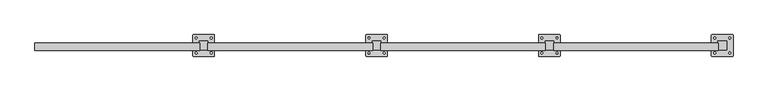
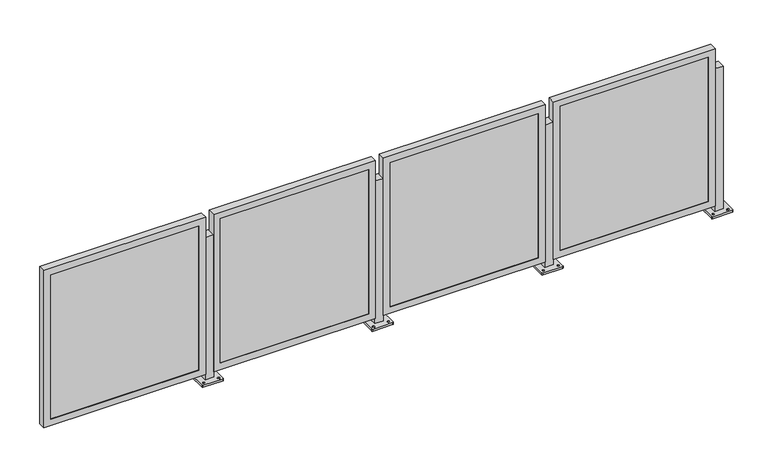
"""IFC4 building model written with IfcOpenShell, lengths in millimetres: railing geometry, Railing - Amico Architectural - Perforated Railing - Sunshade."""

from ifc_helpers import new_model, si_unit, frame, origin, place, context, project, spatial, polyline, circle_curve, outline, extrude, faceted_brep, source, transform, mapped, element, save
from ifc_brep_helpers import plane_surface, cylinder_surface, revolved_surface, advanced_brep


def railing_f60c109b(model_context):
    return source(origin(), model_context, "Body", "SolidModel", [
        advanced_brep(
        [(-7256.9530401, 2085.2064263, 914.4), (-7256.9530401, 2034.4064263, 914.4), (-7206.1530401, 2034.4064263, 914.4), (-7206.1530401, 2085.2064263, 914.4), (-7295.0530403, 1999.4814673, 0.0), (-7295.0530403, 2120.1313853, 0.0), (-7291.8780121, 2123.3064134, 0.0), (-7171.2280681, 2123.3064134, 0.0), (-7168.0530399, 2120.1313853, 0.0), (-7168.0530399, 1999.4814673, 0.0), (-7171.2280681, 1996.3064392, 0.0), (-7291.8780121, 1996.3064392, 0.0), (-7276.0030277, 2009.8001716, 0.0), (-7276.0030277, 2020.9126841, 0.0), (-7276.0030386, 2098.700176, 0.0), (-7276.0030386, 2109.8126576, 0.0), (-7187.1030267, 2009.8001732, 0.0), (-7187.1030267, 2020.9126838, 0.0), (-7187.1030376, 2098.7001776, 0.0), (-7187.1030376, 2109.8126574, 0.0), (-7256.9530401, 2085.2064263, 12.7), (-7256.9530401, 2034.4064263, 12.7), (-7206.1530401, 2034.4064263, 12.7), (-7206.1530401, 2085.2064263, 12.7), (-7295.0530403, 1999.4814673, 12.7), (-7291.8780121, 1996.3064392, 12.7), (-7171.2280681, 1996.3064392, 12.7), (-7168.0530399, 1999.4814673, 12.7), (-7168.0530399, 2120.1313853, 12.7), (-7171.2280681, 2123.3064134, 12.7), (-7291.8780121, 2123.3064134, 12.7), (-7295.0530403, 2120.1313853, 12.7), (-7276.0030277, 2009.8001716, 12.7), (-7276.0030277, 2020.9126841, 12.7), (-7276.0030386, 2098.700176, 12.7), (-7276.0030386, 2109.8126576, 12.7), (-7187.1030267, 2009.8001732, 12.7), (-7187.1030267, 2020.9126838, 12.7), (-7187.1030376, 2098.7001776, 12.7), (-7187.1030376, 2109.8126574, 12.7)],
        [
            (0, 1),
            (1, 2),
            (2, 3),
            (3, 0),
            (4, 5),
            (5, 6, circle_curve(frame((-7291.8780121, 2120.1313853, 0.0), z_axis=(0.0, 0.0, -1.0), x_axis=(0.0, 1.0, 0.0)), 3.1750282)),
            (6, 7),
            (7, 8, circle_curve(frame((-7171.2280681, 2120.1313853, 0.0), z_axis=(0.0, 0.0, -1.0), x_axis=(0.0, 1.0, 0.0)), 3.1750282)),
            (8, 9),
            (9, 10, circle_curve(frame((-7171.2280681, 1999.4814673, 0.0), z_axis=(0.0, 0.0, -1.0), x_axis=(0.0, 1.0, 0.0)), 3.1750282)),
            (10, 11),
            (11, 4, circle_curve(frame((-7291.8780121, 1999.4814673, 0.0), z_axis=(0.0, 0.0, -1.0), x_axis=(0.0, 1.0, 0.0)), 3.1750282)),
            (12, 13, circle_curve(frame((-7276.0030277, 2015.3564279, 0.0), z_axis=(0.0, 0.0, 1.0), x_axis=(0.0, 1.0, 0.0)), 5.5562562)),
            (13, 12, circle_curve(frame((-7276.0030277, 2015.3564279, 0.0), z_axis=(0.0, 0.0, 1.0), x_axis=(0.0, 1.0, 0.0)), 5.5562562)),
            (14, 15, circle_curve(frame((-7276.0030386, 2104.2564168, 0.0), z_axis=(0.0, 0.0, 1.0), x_axis=(0.0, 1.0, 0.0)), 5.5562408)),
            (15, 14, circle_curve(frame((-7276.0030386, 2104.2564168, 0.0), z_axis=(0.0, 0.0, 1.0), x_axis=(0.0, 1.0, 0.0)), 5.5562408)),
            (16, 17, circle_curve(frame((-7187.1030267, 2015.3564285, 0.0), z_axis=(0.0, 0.0, 1.0), x_axis=(0.0, 1.0, 0.0)), 5.5562553)),
            (17, 16, circle_curve(frame((-7187.1030267, 2015.3564285, 0.0), z_axis=(0.0, 0.0, 1.0), x_axis=(0.0, 1.0, 0.0)), 5.5562553)),
            (18, 19, circle_curve(frame((-7187.1030376, 2104.2564175, 0.0), z_axis=(0.0, 0.0, 1.0), x_axis=(0.0, 1.0, 0.0)), 5.5562399)),
            (19, 18, circle_curve(frame((-7187.1030376, 2104.2564175, 0.0), z_axis=(0.0, 0.0, 1.0), x_axis=(0.0, 1.0, 0.0)), 5.5562399)),
            (0, 20),
            (20, 21),
            (21, 1),
            (21, 22),
            (22, 2),
            (22, 23),
            (23, 3),
            (23, 20),
            (24, 25, circle_curve(frame((-7291.8780121, 1999.4814673, 12.7), z_axis=(0.0, 0.0, 1.0), x_axis=(0.0, 1.0, 0.0)), 3.1750282)),
            (25, 26),
            (26, 27, circle_curve(frame((-7171.2280681, 1999.4814673, 12.7), z_axis=(0.0, 0.0, 1.0), x_axis=(0.0, 1.0, 0.0)), 3.1750282)),
            (27, 28),
            (28, 29, circle_curve(frame((-7171.2280681, 2120.1313853, 12.7), z_axis=(0.0, 0.0, 1.0), x_axis=(0.0, 1.0, 0.0)), 3.1750282)),
            (29, 30),
            (30, 31, circle_curve(frame((-7291.8780121, 2120.1313853, 12.7), z_axis=(0.0, 0.0, 1.0), x_axis=(0.0, 1.0, 0.0)), 3.1750282)),
            (31, 24),
            (32, 33, circle_curve(frame((-7276.0030277, 2015.3564279, 12.7), z_axis=(0.0, 0.0, -1.0), x_axis=(0.0, 1.0, 0.0)), 5.5562562)),
            (33, 32, circle_curve(frame((-7276.0030277, 2015.3564279, 12.7), z_axis=(0.0, 0.0, -1.0), x_axis=(0.0, 1.0, 0.0)), 5.5562562)),
            (34, 35, circle_curve(frame((-7276.0030386, 2104.2564168, 12.7), z_axis=(0.0, 0.0, -1.0), x_axis=(0.0, 1.0, 0.0)), 5.5562408)),
            (35, 34, circle_curve(frame((-7276.0030386, 2104.2564168, 12.7), z_axis=(0.0, 0.0, -1.0), x_axis=(0.0, 1.0, 0.0)), 5.5562408)),
            (36, 37, circle_curve(frame((-7187.1030267, 2015.3564285, 12.7), z_axis=(0.0, 0.0, -1.0), x_axis=(0.0, 1.0, 0.0)), 5.5562553)),
            (37, 36, circle_curve(frame((-7187.1030267, 2015.3564285, 12.7), z_axis=(0.0, 0.0, -1.0), x_axis=(0.0, 1.0, 0.0)), 5.5562553)),
            (38, 39, circle_curve(frame((-7187.1030376, 2104.2564175, 12.7), z_axis=(0.0, 0.0, -1.0), x_axis=(0.0, 1.0, 0.0)), 5.5562399)),
            (39, 38, circle_curve(frame((-7187.1030376, 2104.2564175, 12.7), z_axis=(0.0, 0.0, -1.0), x_axis=(0.0, 1.0, 0.0)), 5.5562399)),
            (24, 4),
            (11, 25),
            (10, 26),
            (9, 27),
            (8, 28),
            (7, 29),
            (6, 30),
            (5, 31),
            (32, 12),
            (13, 33),
            (34, 14),
            (15, 35),
            (36, 16),
            (17, 37),
            (38, 18),
            (19, 39),
        ],
        [
            plane_surface(frame((-7256.9530401, 2034.4064263, 914.4), z_axis=(0.0, 0.0, 1.0), x_axis=(0.0, -1.0, 0.0))),
            plane_surface(frame((-7256.9530401, 2034.4064263, 0.0), z_axis=(0.0, 0.0, -1.0), x_axis=(0.0, 1.0, 0.0))),
            plane_surface(frame((-7256.9530401, 2085.2064263, 914.4), z_axis=(-1.0, 0.0, 0.0), x_axis=(0.0, 0.0, -1.0))),
            plane_surface(frame((-7256.9530401, 2034.4064263, 914.4), z_axis=(0.0, -1.0, 0.0), x_axis=(0.0, 0.0, -1.0))),
            plane_surface(frame((-7206.1530401, 2034.4064263, 914.4), z_axis=(1.0, 0.0, 0.0), x_axis=(0.0, 0.0, -1.0))),
            plane_surface(frame((-7206.1530401, 2085.2064263, 914.4), z_axis=(0.0, 1.0, 0.0), x_axis=(0.0, 0.0, -1.0))),
            plane_surface(frame((-7291.8780121, 2002.6564955, 12.7), z_axis=(0.0, 0.0, 1.0), x_axis=(-1.0, 0.0, 0.0))),
            cylinder_surface(frame((-7291.8780121, 1999.4814673, 0.0), z_axis=(0.0, 0.0, 1.0), x_axis=(0.0, 1.0, 0.0)), 3.1750282),
            plane_surface(frame((-7291.8780121, 1996.3064392, 12.7), z_axis=(1.1945386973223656e-12, -1.0, 0.0), x_axis=(0.0, 0.0, -1.0))),
            cylinder_surface(frame((-7171.2280681, 1999.4814673, 0.0), z_axis=(0.0, 0.0, 1.0), x_axis=(0.0, 1.0, 0.0)), 3.1750282),
            plane_surface(frame((-7168.0530399, 1999.4814673, 12.7), z_axis=(1.0, 0.0, 0.0), x_axis=(0.0, 0.0, -1.0))),
            cylinder_surface(frame((-7171.2280681, 2120.1313853, 0.0), z_axis=(0.0, 0.0, 1.0), x_axis=(0.0, 1.0, 0.0)), 3.1750282),
            plane_surface(frame((-7171.2280681, 2123.3064134, 12.7), z_axis=(-1.1946088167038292e-12, 1.0, 0.0), x_axis=(0.0, 0.0, -1.0))),
            cylinder_surface(frame((-7291.8780121, 2120.1313853, 0.0), z_axis=(0.0, 0.0, 1.0), x_axis=(0.0, 1.0, 0.0)), 3.1750282),
            plane_surface(frame((-7295.0530403, 2120.1313853, 12.7), z_axis=(-1.0, 0.0, 0.0), x_axis=(0.0, 0.0, -1.0))),
            revolved_surface(polyline([(-7276.0030277, 2020.9126841, 0.0), (-7276.0030277, 2020.9126841, 12.7)]), (-7276.0030277, 2015.3564279, 0.0), (0.0, 0.0, -1.0)),
            revolved_surface(polyline([(-7276.0030386, 2109.8126576, 0.0), (-7276.0030386, 2109.8126576, 12.7)]), (-7276.0030386, 2104.2564168, 0.0), (0.0, 0.0, -1.0)),
            revolved_surface(polyline([(-7187.1030267, 2020.9126838, 0.0), (-7187.1030267, 2020.9126838, 12.7)]), (-7187.1030267, 2015.3564285, 0.0), (0.0, 0.0, -1.0)),
            revolved_surface(polyline([(-7187.1030376, 2109.8126574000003, 0.0), (-7187.1030376, 2109.8126574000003, 12.7)]), (-7187.1030376, 2104.2564175, 0.0), (0.0, 0.0, -1.0)),
        ],
        [
            (0, [[1, 2, 3, 4]]),
            (1, [[5, 6, 7, 8, 9, 10, 11, 12], [13, 14], [15, 16], [17, 18], [19, 20]]),
            (2, [[-1, 21, 22, 23]]),
            (3, [[-2, -23, 24, 25]]),
            (4, [[-3, -25, 26, 27]]),
            (5, [[-4, -27, 28, -21]]),
            (6, [[29, 30, 31, 32, 33, 34, 35, 36], [-22, -28, -26, -24], [37, 38], [39, 40], [41, 42], [43, 44]]),
            (7, [[-29, 45, -12, 46]]),
            (8, [[-30, -46, -11, 47]]),
            (9, [[-31, -47, -10, 48]]),
            (10, [[-32, -48, -9, 49]]),
            (11, [[-33, -49, -8, 50]]),
            (12, [[-34, -50, -7, 51]]),
            (13, [[-35, -51, -6, 52]]),
            (14, [[-36, -52, -5, -45]]),
            (15, [[-37, 53, -14, 54]]),
            (15, [[-38, -54, -13, -53]]),
            (16, [[-39, 55, -16, 56]]),
            (16, [[-40, -56, -15, -55]]),
            (17, [[-41, 57, -18, 58]]),
            (17, [[-42, -58, -17, -57]]),
            (18, [[-43, 59, -20, 60]]),
            (18, [[-44, -60, -19, -59]]),
        ],
    ),
        faceted_brep([(-8223.3574935, 2031.6632263, 47.625), (-7254.9824935, 2031.6632263, 47.625), (-7254.9824935, 2031.6632263, 1044.575), (-8223.3574935, 2031.6632263, 1044.575), (-8182.0824935, 2031.6632263, 1003.3), (-7296.2574935, 2031.6632263, 1003.3), (-7296.2574935, 2031.6632263, 88.9), (-8182.0824935, 2031.6632263, 88.9), (-8182.0824935, 2034.4064263, 1003.3), (-8182.0824935, 2034.4064263, 88.9), (-8223.3574935, 2075.5365228, 1044.575), (-8223.3574935, 2075.5365228, 47.625), (-8220.1824935, 2075.5365228, 1041.4), (-8220.1824935, 2034.4064263, 1041.4), (-8220.1824935, 2034.4064263, 50.8), (-8220.1824935, 2075.5365228, 50.8), (-7296.2574935, 2034.4064263, 88.9), (-7254.9824935, 2075.5365228, 47.625), (-7258.1574935, 2034.4064263, 50.8), (-7258.1574935, 2075.5365228, 50.8), (-7296.2574935, 2034.4064263, 1003.3), (-7254.9824935, 2075.5365228, 1044.575), (-7258.1574935, 2034.4064263, 1041.4), (-7258.1574935, 2075.5365228, 1041.4)], [[[0, 1, 2, 3], [4, 5, 6, 7]], [[8, 4, 7, 9]], [[3, 10, 11, 0]], [[12, 13, 14, 15]], [[9, 7, 6, 16]], [[0, 11, 17, 1]], [[15, 14, 18, 19]], [[16, 6, 5, 20]], [[1, 17, 21, 2]], [[19, 18, 22, 23]], [[20, 5, 4, 8]], [[10, 21, 17, 11], [15, 19, 23, 12]], [[2, 21, 10, 3]], [[13, 22, 18, 14], [9, 16, 20, 8]], [[23, 22, 13, 12]]]),
        extrude(outline(polyline([(-8220.1824935, 2043.9314263), (-7258.1574935, 2043.9314263), (-7258.1574935, 2034.4064263), (-8220.1824935, 2034.4064263), (-8220.1824935, 2043.9314263)])), frame((0.0, 0.0, 50.8), z_axis=(0.0, 0.0, 1.0), x_axis=(1.0, 0.0, 0.0)), (0.0, 0.0, 1.0), 990.6),
        advanced_brep(
        [(-8272.9530401, 2085.2064263, 914.4), (-8272.9530401, 2034.4064263, 914.4), (-8222.1530401, 2034.4064263, 914.4), (-8222.1530401, 2085.2064263, 914.4), (-8311.0530403, 1999.4814673, 0.0), (-8311.0530403, 2120.1313853, 0.0), (-8307.8780121, 2123.3064134, 0.0), (-8187.2280681, 2123.3064134, 0.0), (-8184.0530399, 2120.1313853, 0.0), (-8184.0530399, 1999.4814673, 0.0), (-8187.2280681, 1996.3064392, 0.0), (-8307.8780121, 1996.3064392, 0.0), (-8292.0030277, 2009.8001716, 0.0), (-8292.0030277, 2020.9126841, 0.0), (-8292.0030386, 2098.700176, 0.0), (-8292.0030386, 2109.8126576, 0.0), (-8203.1030267, 2009.8001732, 0.0), (-8203.1030267, 2020.9126838, 0.0), (-8203.1030376, 2098.7001776, 0.0), (-8203.1030376, 2109.8126574, 0.0), (-8272.9530401, 2085.2064263, 12.7), (-8272.9530401, 2034.4064263, 12.7), (-8222.1530401, 2034.4064263, 12.7), (-8222.1530401, 2085.2064263, 12.7), (-8311.0530403, 1999.4814673, 12.7), (-8307.8780121, 1996.3064392, 12.7), (-8187.2280681, 1996.3064392, 12.7), (-8184.0530399, 1999.4814673, 12.7), (-8184.0530399, 2120.1313853, 12.7), (-8187.2280681, 2123.3064134, 12.7), (-8307.8780121, 2123.3064134, 12.7), (-8311.0530403, 2120.1313853, 12.7), (-8292.0030277, 2009.8001716, 12.7), (-8292.0030277, 2020.9126841, 12.7), (-8292.0030386, 2098.700176, 12.7), (-8292.0030386, 2109.8126576, 12.7), (-8203.1030267, 2009.8001732, 12.7), (-8203.1030267, 2020.9126838, 12.7), (-8203.1030376, 2098.7001776, 12.7), (-8203.1030376, 2109.8126574, 12.7)],
        [
            (0, 1),
            (1, 2),
            (2, 3),
            (3, 0),
            (4, 5),
            (5, 6, circle_curve(frame((-8307.8780121, 2120.1313853, 0.0), z_axis=(0.0, 0.0, -1.0), x_axis=(0.0, 1.0, 0.0)), 3.1750282)),
            (6, 7),
            (7, 8, circle_curve(frame((-8187.2280681, 2120.1313853, 0.0), z_axis=(0.0, 0.0, -1.0), x_axis=(0.0, 1.0, 0.0)), 3.1750282)),
            (8, 9),
            (9, 10, circle_curve(frame((-8187.2280681, 1999.4814673, 0.0), z_axis=(0.0, 0.0, -1.0), x_axis=(0.0, 1.0, 0.0)), 3.1750282)),
            (10, 11),
            (11, 4, circle_curve(frame((-8307.8780121, 1999.4814673, 0.0), z_axis=(0.0, 0.0, -1.0), x_axis=(0.0, 1.0, 0.0)), 3.1750282)),
            (12, 13, circle_curve(frame((-8292.0030277, 2015.3564279, 0.0), z_axis=(0.0, 0.0, 1.0), x_axis=(0.0, 1.0, 0.0)), 5.5562562)),
            (13, 12, circle_curve(frame((-8292.0030277, 2015.3564279, 0.0), z_axis=(0.0, 0.0, 1.0), x_axis=(0.0, 1.0, 0.0)), 5.5562562)),
            (14, 15, circle_curve(frame((-8292.0030386, 2104.2564168, 0.0), z_axis=(0.0, 0.0, 1.0), x_axis=(0.0, 1.0, 0.0)), 5.5562408)),
            (15, 14, circle_curve(frame((-8292.0030386, 2104.2564168, 0.0), z_axis=(0.0, 0.0, 1.0), x_axis=(0.0, 1.0, 0.0)), 5.5562408)),
            (16, 17, circle_curve(frame((-8203.1030267, 2015.3564285, 0.0), z_axis=(0.0, 0.0, 1.0), x_axis=(0.0, 1.0, 0.0)), 5.5562553)),
            (17, 16, circle_curve(frame((-8203.1030267, 2015.3564285, 0.0), z_axis=(0.0, 0.0, 1.0), x_axis=(0.0, 1.0, 0.0)), 5.5562553)),
            (18, 19, circle_curve(frame((-8203.1030376, 2104.2564175, 0.0), z_axis=(0.0, 0.0, 1.0), x_axis=(0.0, 1.0, 0.0)), 5.5562399)),
            (19, 18, circle_curve(frame((-8203.1030376, 2104.2564175, 0.0), z_axis=(0.0, 0.0, 1.0), x_axis=(0.0, 1.0, 0.0)), 5.5562399)),
            (0, 20),
            (20, 21),
            (21, 1),
            (21, 22),
            (22, 2),
            (22, 23),
            (23, 3),
            (23, 20),
            (24, 25, circle_curve(frame((-8307.8780121, 1999.4814673, 12.7), z_axis=(0.0, 0.0, 1.0), x_axis=(0.0, 1.0, 0.0)), 3.1750282)),
            (25, 26),
            (26, 27, circle_curve(frame((-8187.2280681, 1999.4814673, 12.7), z_axis=(0.0, 0.0, 1.0), x_axis=(0.0, 1.0, 0.0)), 3.1750282)),
            (27, 28),
            (28, 29, circle_curve(frame((-8187.2280681, 2120.1313853, 12.7), z_axis=(0.0, 0.0, 1.0), x_axis=(0.0, 1.0, 0.0)), 3.1750282)),
            (29, 30),
            (30, 31, circle_curve(frame((-8307.8780121, 2120.1313853, 12.7), z_axis=(0.0, 0.0, 1.0), x_axis=(0.0, 1.0, 0.0)), 3.1750282)),
            (31, 24),
            (32, 33, circle_curve(frame((-8292.0030277, 2015.3564279, 12.7), z_axis=(0.0, 0.0, -1.0), x_axis=(0.0, 1.0, 0.0)), 5.5562562)),
            (33, 32, circle_curve(frame((-8292.0030277, 2015.3564279, 12.7), z_axis=(0.0, 0.0, -1.0), x_axis=(0.0, 1.0, 0.0)), 5.5562562)),
            (34, 35, circle_curve(frame((-8292.0030386, 2104.2564168, 12.7), z_axis=(0.0, 0.0, -1.0), x_axis=(0.0, 1.0, 0.0)), 5.5562408)),
            (35, 34, circle_curve(frame((-8292.0030386, 2104.2564168, 12.7), z_axis=(0.0, 0.0, -1.0), x_axis=(0.0, 1.0, 0.0)), 5.5562408)),
            (36, 37, circle_curve(frame((-8203.1030267, 2015.3564285, 12.7), z_axis=(0.0, 0.0, -1.0), x_axis=(0.0, 1.0, 0.0)), 5.5562553)),
            (37, 36, circle_curve(frame((-8203.1030267, 2015.3564285, 12.7), z_axis=(0.0, 0.0, -1.0), x_axis=(0.0, 1.0, 0.0)), 5.5562553)),
            (38, 39, circle_curve(frame((-8203.1030376, 2104.2564175, 12.7), z_axis=(0.0, 0.0, -1.0), x_axis=(0.0, 1.0, 0.0)), 5.5562399)),
            (39, 38, circle_curve(frame((-8203.1030376, 2104.2564175, 12.7), z_axis=(0.0, 0.0, -1.0), x_axis=(0.0, 1.0, 0.0)), 5.5562399)),
            (24, 4),
            (11, 25),
            (10, 26),
            (9, 27),
            (8, 28),
            (7, 29),
            (6, 30),
            (5, 31),
            (32, 12),
            (13, 33),
            (34, 14),
            (15, 35),
            (36, 16),
            (17, 37),
            (38, 18),
            (19, 39),
        ],
        [
            plane_surface(frame((-8272.9530401, 2034.4064263, 914.4), z_axis=(0.0, 0.0, 1.0), x_axis=(0.0, -1.0, 0.0))),
            plane_surface(frame((-8272.9530401, 2034.4064263, 0.0), z_axis=(0.0, 0.0, -1.0), x_axis=(0.0, 1.0, 0.0))),
            plane_surface(frame((-8272.9530401, 2085.2064263, 914.4), z_axis=(-1.0, 0.0, 0.0), x_axis=(0.0, 0.0, -1.0))),
            plane_surface(frame((-8272.9530401, 2034.4064263, 914.4), z_axis=(0.0, -1.0, 0.0), x_axis=(0.0, 0.0, -1.0))),
            plane_surface(frame((-8222.1530401, 2034.4064263, 914.4), z_axis=(1.0, 0.0, 0.0), x_axis=(0.0, 0.0, -1.0))),
            plane_surface(frame((-8222.1530401, 2085.2064263, 914.4), z_axis=(0.0, 1.0, 0.0), x_axis=(0.0, 0.0, -1.0))),
            plane_surface(frame((-8307.8780121, 2002.6564955, 12.7), z_axis=(0.0, 0.0, 1.0), x_axis=(-1.0, 0.0, 0.0))),
            cylinder_surface(frame((-8307.8780121, 1999.4814673, 0.0), z_axis=(0.0, 0.0, 1.0), x_axis=(0.0, 1.0, 0.0)), 3.1750282),
            plane_surface(frame((-8307.8780121, 1996.3064392, 12.7), z_axis=(1.1945386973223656e-12, -1.0, 0.0), x_axis=(0.0, 0.0, -1.0))),
            cylinder_surface(frame((-8187.2280681, 1999.4814673, 0.0), z_axis=(0.0, 0.0, 1.0), x_axis=(0.0, 1.0, 0.0)), 3.1750282),
            plane_surface(frame((-8184.0530399, 1999.4814673, 12.7), z_axis=(1.0, 0.0, 0.0), x_axis=(0.0, 0.0, -1.0))),
            cylinder_surface(frame((-8187.2280681, 2120.1313853, 0.0), z_axis=(0.0, 0.0, 1.0), x_axis=(0.0, 1.0, 0.0)), 3.1750282),
            plane_surface(frame((-8187.2280681, 2123.3064134, 12.7), z_axis=(-1.1946088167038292e-12, 1.0, 0.0), x_axis=(0.0, 0.0, -1.0))),
            cylinder_surface(frame((-8307.8780121, 2120.1313853, 0.0), z_axis=(0.0, 0.0, 1.0), x_axis=(0.0, 1.0, 0.0)), 3.1750282),
            plane_surface(frame((-8311.0530403, 2120.1313853, 12.7), z_axis=(-1.0, 0.0, 0.0), x_axis=(0.0, 0.0, -1.0))),
            revolved_surface(polyline([(-8292.0030277, 2020.9126841, 0.0), (-8292.0030277, 2020.9126841, 12.7)]), (-8292.0030277, 2015.3564279, 0.0), (0.0, 0.0, -1.0)),
            revolved_surface(polyline([(-8292.0030386, 2109.8126576, 0.0), (-8292.0030386, 2109.8126576, 12.7)]), (-8292.0030386, 2104.2564168, 0.0), (0.0, 0.0, -1.0)),
            revolved_surface(polyline([(-8203.1030267, 2020.9126838, 0.0), (-8203.1030267, 2020.9126838, 12.7)]), (-8203.1030267, 2015.3564285, 0.0), (0.0, 0.0, -1.0)),
            revolved_surface(polyline([(-8203.1030376, 2109.8126574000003, 0.0), (-8203.1030376, 2109.8126574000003, 12.7)]), (-8203.1030376, 2104.2564175, 0.0), (0.0, 0.0, -1.0)),
        ],
        [
            (0, [[1, 2, 3, 4]]),
            (1, [[5, 6, 7, 8, 9, 10, 11, 12], [13, 14], [15, 16], [17, 18], [19, 20]]),
            (2, [[-1, 21, 22, 23]]),
            (3, [[-2, -23, 24, 25]]),
            (4, [[-3, -25, 26, 27]]),
            (5, [[-4, -27, 28, -21]]),
            (6, [[29, 30, 31, 32, 33, 34, 35, 36], [-22, -28, -26, -24], [37, 38], [39, 40], [41, 42], [43, 44]]),
            (7, [[-29, 45, -12, 46]]),
            (8, [[-30, -46, -11, 47]]),
            (9, [[-31, -47, -10, 48]]),
            (10, [[-32, -48, -9, 49]]),
            (11, [[-33, -49, -8, 50]]),
            (12, [[-34, -50, -7, 51]]),
            (13, [[-35, -51, -6, 52]]),
            (14, [[-36, -52, -5, -45]]),
            (15, [[-37, 53, -14, 54]]),
            (15, [[-38, -54, -13, -53]]),
            (16, [[-39, 55, -16, 56]]),
            (16, [[-40, -56, -15, -55]]),
            (17, [[-41, 57, -18, 58]]),
            (17, [[-42, -58, -17, -57]]),
            (18, [[-43, 59, -20, 60]]),
            (18, [[-44, -60, -19, -59]]),
        ],
    ),
        faceted_brep([(-9239.3574935, 2031.6632263, 47.625), (-8270.9824935, 2031.6632263, 47.625), (-8270.9824935, 2031.6632263, 1044.575), (-9239.3574935, 2031.6632263, 1044.575), (-9198.0824935, 2031.6632263, 1003.3), (-8312.2574935, 2031.6632263, 1003.3), (-8312.2574935, 2031.6632263, 88.9), (-9198.0824935, 2031.6632263, 88.9), (-9198.0824935, 2034.4064263, 1003.3), (-9198.0824935, 2034.4064263, 88.9), (-9239.3574935, 2075.5365228, 1044.575), (-9239.3574935, 2075.5365228, 47.625), (-9236.1824935, 2075.5365228, 1041.4), (-9236.1824935, 2034.4064263, 1041.4), (-9236.1824935, 2034.4064263, 50.8), (-9236.1824935, 2075.5365228, 50.8), (-8312.2574935, 2034.4064263, 88.9), (-8270.9824935, 2075.5365228, 47.625), (-8274.1574935, 2034.4064263, 50.8), (-8274.1574935, 2075.5365228, 50.8), (-8312.2574935, 2034.4064263, 1003.3), (-8270.9824935, 2075.5365228, 1044.575), (-8274.1574935, 2034.4064263, 1041.4), (-8274.1574935, 2075.5365228, 1041.4)], [[[0, 1, 2, 3], [4, 5, 6, 7]], [[8, 4, 7, 9]], [[3, 10, 11, 0]], [[12, 13, 14, 15]], [[9, 7, 6, 16]], [[0, 11, 17, 1]], [[15, 14, 18, 19]], [[16, 6, 5, 20]], [[1, 17, 21, 2]], [[19, 18, 22, 23]], [[20, 5, 4, 8]], [[10, 21, 17, 11], [15, 19, 23, 12]], [[2, 21, 10, 3]], [[13, 22, 18, 14], [9, 16, 20, 8]], [[23, 22, 13, 12]]]),
        extrude(outline(polyline([(-9236.1824935, 2043.9314263), (-8274.1574935, 2043.9314263), (-8274.1574935, 2034.4064263), (-9236.1824935, 2034.4064263), (-9236.1824935, 2043.9314263)])), frame((0.0, 0.0, 50.8), z_axis=(0.0, 0.0, 1.0), x_axis=(1.0, 0.0, 0.0)), (0.0, 0.0, 1.0), 990.6),
        advanced_brep(
        [(-9288.9530401, 2085.2064263, 914.4), (-9288.9530401, 2034.4064263, 914.4), (-9238.1530401, 2034.4064263, 914.4), (-9238.1530401, 2085.2064263, 914.4), (-9327.0530403, 1999.4814673, 0.0), (-9327.0530403, 2120.1313853, 0.0), (-9323.8780121, 2123.3064134, 0.0), (-9203.2280681, 2123.3064134, 0.0), (-9200.0530399, 2120.1313853, 0.0), (-9200.0530399, 1999.4814673, 0.0), (-9203.2280681, 1996.3064392, 0.0), (-9323.8780121, 1996.3064392, 0.0), (-9308.0030277, 2009.8001716, 0.0), (-9308.0030277, 2020.9126841, 0.0), (-9308.0030386, 2098.700176, 0.0), (-9308.0030386, 2109.8126576, 0.0), (-9219.1030267, 2009.8001732, 0.0), (-9219.1030267, 2020.9126838, 0.0), (-9219.1030376, 2098.7001776, 0.0), (-9219.1030376, 2109.8126574, 0.0), (-9288.9530401, 2085.2064263, 12.7), (-9288.9530401, 2034.4064263, 12.7), (-9238.1530401, 2034.4064263, 12.7), (-9238.1530401, 2085.2064263, 12.7), (-9327.0530403, 1999.4814673, 12.7), (-9323.8780121, 1996.3064392, 12.7), (-9203.2280681, 1996.3064392, 12.7), (-9200.0530399, 1999.4814673, 12.7), (-9200.0530399, 2120.1313853, 12.7), (-9203.2280681, 2123.3064134, 12.7), (-9323.8780121, 2123.3064134, 12.7), (-9327.0530403, 2120.1313853, 12.7), (-9308.0030277, 2009.8001716, 12.7), (-9308.0030277, 2020.9126841, 12.7), (-9308.0030386, 2098.700176, 12.7), (-9308.0030386, 2109.8126576, 12.7), (-9219.1030267, 2009.8001732, 12.7), (-9219.1030267, 2020.9126838, 12.7), (-9219.1030376, 2098.7001776, 12.7), (-9219.1030376, 2109.8126574, 12.7)],
        [
            (0, 1),
            (1, 2),
            (2, 3),
            (3, 0),
            (4, 5),
            (5, 6, circle_curve(frame((-9323.8780121, 2120.1313853, 0.0), z_axis=(0.0, 0.0, -1.0), x_axis=(0.0, 1.0, 0.0)), 3.1750282)),
            (6, 7),
            (7, 8, circle_curve(frame((-9203.2280681, 2120.1313853, 0.0), z_axis=(0.0, 0.0, -1.0), x_axis=(0.0, 1.0, 0.0)), 3.1750282)),
            (8, 9),
            (9, 10, circle_curve(frame((-9203.2280681, 1999.4814673, 0.0), z_axis=(0.0, 0.0, -1.0), x_axis=(0.0, 1.0, 0.0)), 3.1750282)),
            (10, 11),
            (11, 4, circle_curve(frame((-9323.8780121, 1999.4814673, 0.0), z_axis=(0.0, 0.0, -1.0), x_axis=(0.0, 1.0, 0.0)), 3.1750282)),
            (12, 13, circle_curve(frame((-9308.0030277, 2015.3564279, 0.0), z_axis=(0.0, 0.0, 1.0), x_axis=(0.0, 1.0, 0.0)), 5.5562562)),
            (13, 12, circle_curve(frame((-9308.0030277, 2015.3564279, 0.0), z_axis=(0.0, 0.0, 1.0), x_axis=(0.0, 1.0, 0.0)), 5.5562562)),
            (14, 15, circle_curve(frame((-9308.0030386, 2104.2564168, 0.0), z_axis=(0.0, 0.0, 1.0), x_axis=(0.0, 1.0, 0.0)), 5.5562408)),
            (15, 14, circle_curve(frame((-9308.0030386, 2104.2564168, 0.0), z_axis=(0.0, 0.0, 1.0), x_axis=(0.0, 1.0, 0.0)), 5.5562408)),
            (16, 17, circle_curve(frame((-9219.1030267, 2015.3564285, 0.0), z_axis=(0.0, 0.0, 1.0), x_axis=(0.0, 1.0, 0.0)), 5.5562553)),
            (17, 16, circle_curve(frame((-9219.1030267, 2015.3564285, 0.0), z_axis=(0.0, 0.0, 1.0), x_axis=(0.0, 1.0, 0.0)), 5.5562553)),
            (18, 19, circle_curve(frame((-9219.1030376, 2104.2564175, 0.0), z_axis=(0.0, 0.0, 1.0), x_axis=(0.0, 1.0, 0.0)), 5.5562399)),
            (19, 18, circle_curve(frame((-9219.1030376, 2104.2564175, 0.0), z_axis=(0.0, 0.0, 1.0), x_axis=(0.0, 1.0, 0.0)), 5.5562399)),
            (0, 20),
            (20, 21),
            (21, 1),
            (21, 22),
            (22, 2),
            (22, 23),
            (23, 3),
            (23, 20),
            (24, 25, circle_curve(frame((-9323.8780121, 1999.4814673, 12.7), z_axis=(0.0, 0.0, 1.0), x_axis=(0.0, 1.0, 0.0)), 3.1750282)),
            (25, 26),
            (26, 27, circle_curve(frame((-9203.2280681, 1999.4814673, 12.7), z_axis=(0.0, 0.0, 1.0), x_axis=(0.0, 1.0, 0.0)), 3.1750282)),
            (27, 28),
            (28, 29, circle_curve(frame((-9203.2280681, 2120.1313853, 12.7), z_axis=(0.0, 0.0, 1.0), x_axis=(0.0, 1.0, 0.0)), 3.1750282)),
            (29, 30),
            (30, 31, circle_curve(frame((-9323.8780121, 2120.1313853, 12.7), z_axis=(0.0, 0.0, 1.0), x_axis=(0.0, 1.0, 0.0)), 3.1750282)),
            (31, 24),
            (32, 33, circle_curve(frame((-9308.0030277, 2015.3564279, 12.7), z_axis=(0.0, 0.0, -1.0), x_axis=(0.0, 1.0, 0.0)), 5.5562562)),
            (33, 32, circle_curve(frame((-9308.0030277, 2015.3564279, 12.7), z_axis=(0.0, 0.0, -1.0), x_axis=(0.0, 1.0, 0.0)), 5.5562562)),
            (34, 35, circle_curve(frame((-9308.0030386, 2104.2564168, 12.7), z_axis=(0.0, 0.0, -1.0), x_axis=(0.0, 1.0, 0.0)), 5.5562408)),
            (35, 34, circle_curve(frame((-9308.0030386, 2104.2564168, 12.7), z_axis=(0.0, 0.0, -1.0), x_axis=(0.0, 1.0, 0.0)), 5.5562408)),
            (36, 37, circle_curve(frame((-9219.1030267, 2015.3564285, 12.7), z_axis=(0.0, 0.0, -1.0), x_axis=(0.0, 1.0, 0.0)), 5.5562553)),
            (37, 36, circle_curve(frame((-9219.1030267, 2015.3564285, 12.7), z_axis=(0.0, 0.0, -1.0), x_axis=(0.0, 1.0, 0.0)), 5.5562553)),
            (38, 39, circle_curve(frame((-9219.1030376, 2104.2564175, 12.7), z_axis=(0.0, 0.0, -1.0), x_axis=(0.0, 1.0, 0.0)), 5.5562399)),
            (39, 38, circle_curve(frame((-9219.1030376, 2104.2564175, 12.7), z_axis=(0.0, 0.0, -1.0), x_axis=(0.0, 1.0, 0.0)), 5.5562399)),
            (24, 4),
            (11, 25),
            (10, 26),
            (9, 27),
            (8, 28),
            (7, 29),
            (6, 30),
            (5, 31),
            (32, 12),
            (13, 33),
            (34, 14),
            (15, 35),
            (36, 16),
            (17, 37),
            (38, 18),
            (19, 39),
        ],
        [
            plane_surface(frame((-9288.9530401, 2034.4064263, 914.4), z_axis=(0.0, 0.0, 1.0), x_axis=(0.0, -1.0, 0.0))),
            plane_surface(frame((-9288.9530401, 2034.4064263, 0.0), z_axis=(0.0, 0.0, -1.0), x_axis=(0.0, 1.0, 0.0))),
            plane_surface(frame((-9288.9530401, 2085.2064263, 914.4), z_axis=(-1.0, 0.0, 0.0), x_axis=(0.0, 0.0, -1.0))),
            plane_surface(frame((-9288.9530401, 2034.4064263, 914.4), z_axis=(0.0, -1.0, 0.0), x_axis=(0.0, 0.0, -1.0))),
            plane_surface(frame((-9238.1530401, 2034.4064263, 914.4), z_axis=(1.0, 0.0, 0.0), x_axis=(0.0, 0.0, -1.0))),
            plane_surface(frame((-9238.1530401, 2085.2064263, 914.4), z_axis=(0.0, 1.0, 0.0), x_axis=(0.0, 0.0, -1.0))),
            plane_surface(frame((-9323.8780121, 2002.6564955, 12.7), z_axis=(0.0, 0.0, 1.0), x_axis=(-1.0, 0.0, 0.0))),
            cylinder_surface(frame((-9323.8780121, 1999.4814673, 0.0), z_axis=(0.0, 0.0, 1.0), x_axis=(0.0, 1.0, 0.0)), 3.1750282),
            plane_surface(frame((-9323.8780121, 1996.3064392, 12.7), z_axis=(1.1945386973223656e-12, -1.0, 0.0), x_axis=(0.0, 0.0, -1.0))),
            cylinder_surface(frame((-9203.2280681, 1999.4814673, 0.0), z_axis=(0.0, 0.0, 1.0), x_axis=(0.0, 1.0, 0.0)), 3.1750282),
            plane_surface(frame((-9200.0530399, 1999.4814673, 12.7), z_axis=(1.0, 0.0, 0.0), x_axis=(0.0, 0.0, -1.0))),
            cylinder_surface(frame((-9203.2280681, 2120.1313853, 0.0), z_axis=(0.0, 0.0, 1.0), x_axis=(0.0, 1.0, 0.0)), 3.1750282),
            plane_surface(frame((-9203.2280681, 2123.3064134, 12.7), z_axis=(-1.1946088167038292e-12, 1.0, 0.0), x_axis=(0.0, 0.0, -1.0))),
            cylinder_surface(frame((-9323.8780121, 2120.1313853, 0.0), z_axis=(0.0, 0.0, 1.0), x_axis=(0.0, 1.0, 0.0)), 3.1750282),
            plane_surface(frame((-9327.0530403, 2120.1313853, 12.7), z_axis=(-1.0, 0.0, 0.0), x_axis=(0.0, 0.0, -1.0))),
            revolved_surface(polyline([(-9308.0030277, 2020.9126841, 0.0), (-9308.0030277, 2020.9126841, 12.7)]), (-9308.0030277, 2015.3564279, 0.0), (0.0, 0.0, -1.0)),
            revolved_surface(polyline([(-9308.0030386, 2109.8126576, 0.0), (-9308.0030386, 2109.8126576, 12.7)]), (-9308.0030386, 2104.2564168, 0.0), (0.0, 0.0, -1.0)),
            revolved_surface(polyline([(-9219.1030267, 2020.9126838, 0.0), (-9219.1030267, 2020.9126838, 12.7)]), (-9219.1030267, 2015.3564285, 0.0), (0.0, 0.0, -1.0)),
            revolved_surface(polyline([(-9219.1030376, 2109.8126574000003, 0.0), (-9219.1030376, 2109.8126574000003, 12.7)]), (-9219.1030376, 2104.2564175, 0.0), (0.0, 0.0, -1.0)),
        ],
        [
            (0, [[1, 2, 3, 4]]),
            (1, [[5, 6, 7, 8, 9, 10, 11, 12], [13, 14], [15, 16], [17, 18], [19, 20]]),
            (2, [[-1, 21, 22, 23]]),
            (3, [[-2, -23, 24, 25]]),
            (4, [[-3, -25, 26, 27]]),
            (5, [[-4, -27, 28, -21]]),
            (6, [[29, 30, 31, 32, 33, 34, 35, 36], [-22, -28, -26, -24], [37, 38], [39, 40], [41, 42], [43, 44]]),
            (7, [[-29, 45, -12, 46]]),
            (8, [[-30, -46, -11, 47]]),
            (9, [[-31, -47, -10, 48]]),
            (10, [[-32, -48, -9, 49]]),
            (11, [[-33, -49, -8, 50]]),
            (12, [[-34, -50, -7, 51]]),
            (13, [[-35, -51, -6, 52]]),
            (14, [[-36, -52, -5, -45]]),
            (15, [[-37, 53, -14, 54]]),
            (15, [[-38, -54, -13, -53]]),
            (16, [[-39, 55, -16, 56]]),
            (16, [[-40, -56, -15, -55]]),
            (17, [[-41, 57, -18, 58]]),
            (17, [[-42, -58, -17, -57]]),
            (18, [[-43, 59, -20, 60]]),
            (18, [[-44, -60, -19, -59]]),
        ],
    ),
        faceted_brep([(-10255.3574935, 2031.6632263, 47.625), (-9286.9824935, 2031.6632263, 47.625), (-9286.9824935, 2031.6632263, 1044.575), (-10255.3574935, 2031.6632263, 1044.575), (-10214.0824935, 2031.6632263, 1003.3), (-9328.2574935, 2031.6632263, 1003.3), (-9328.2574935, 2031.6632263, 88.9), (-10214.0824935, 2031.6632263, 88.9), (-10214.0824935, 2034.4064263, 1003.3), (-10214.0824935, 2034.4064263, 88.9), (-10255.3574935, 2075.5365228, 1044.575), (-10255.3574935, 2075.5365228, 47.625), (-10252.1824935, 2075.5365228, 1041.4), (-10252.1824935, 2034.4064263, 1041.4), (-10252.1824935, 2034.4064263, 50.8), (-10252.1824935, 2075.5365228, 50.8), (-9328.2574935, 2034.4064263, 88.9), (-9286.9824935, 2075.5365228, 47.625), (-9290.1574935, 2034.4064263, 50.8), (-9290.1574935, 2075.5365228, 50.8), (-9328.2574935, 2034.4064263, 1003.3), (-9286.9824935, 2075.5365228, 1044.575), (-9290.1574935, 2034.4064263, 1041.4), (-9290.1574935, 2075.5365228, 1041.4)], [[[0, 1, 2, 3], [4, 5, 6, 7]], [[8, 4, 7, 9]], [[3, 10, 11, 0]], [[12, 13, 14, 15]], [[9, 7, 6, 16]], [[0, 11, 17, 1]], [[15, 14, 18, 19]], [[16, 6, 5, 20]], [[1, 17, 21, 2]], [[19, 18, 22, 23]], [[20, 5, 4, 8]], [[10, 21, 17, 11], [15, 19, 23, 12]], [[2, 21, 10, 3]], [[13, 22, 18, 14], [9, 16, 20, 8]], [[23, 22, 13, 12]]]),
        extrude(outline(polyline([(-10252.1824935, 2043.9314263), (-9290.1574935, 2043.9314263), (-9290.1574935, 2034.4064263), (-10252.1824935, 2034.4064263), (-10252.1824935, 2043.9314263)])), frame((0.0, 0.0, 50.8), z_axis=(0.0, 0.0, 1.0), x_axis=(1.0, 0.0, 0.0)), (0.0, 0.0, 1.0), 990.6),
        advanced_brep(
        [(-10304.9530401, 2085.2064263, 914.4), (-10304.9530401, 2034.4064263, 914.4), (-10254.1530401, 2034.4064263, 914.4), (-10254.1530401, 2085.2064263, 914.4), (-10343.0530403, 1999.4814673, 0.0), (-10343.0530403, 2120.1313853, 0.0), (-10339.8780121, 2123.3064134, 0.0), (-10219.2280681, 2123.3064134, 0.0), (-10216.0530399, 2120.1313853, 0.0), (-10216.0530399, 1999.4814673, 0.0), (-10219.2280681, 1996.3064392, 0.0), (-10339.8780121, 1996.3064392, 0.0), (-10324.0030277, 2009.8001716, 0.0), (-10324.0030277, 2020.9126841, 0.0), (-10324.0030386, 2098.700176, 0.0), (-10324.0030386, 2109.8126576, 0.0), (-10235.1030267, 2009.8001732, 0.0), (-10235.1030267, 2020.9126838, 0.0), (-10235.1030376, 2098.7001776, 0.0), (-10235.1030376, 2109.8126574, 0.0), (-10304.9530401, 2085.2064263, 12.7), (-10304.9530401, 2034.4064263, 12.7), (-10254.1530401, 2034.4064263, 12.7), (-10254.1530401, 2085.2064263, 12.7), (-10343.0530403, 1999.4814673, 12.7), (-10339.8780121, 1996.3064392, 12.7), (-10219.2280681, 1996.3064392, 12.7), (-10216.0530399, 1999.4814673, 12.7), (-10216.0530399, 2120.1313853, 12.7), (-10219.2280681, 2123.3064134, 12.7), (-10339.8780121, 2123.3064134, 12.7), (-10343.0530403, 2120.1313853, 12.7), (-10324.0030277, 2009.8001716, 12.7), (-10324.0030277, 2020.9126841, 12.7), (-10324.0030386, 2098.700176, 12.7), (-10324.0030386, 2109.8126576, 12.7), (-10235.1030267, 2009.8001732, 12.7), (-10235.1030267, 2020.9126838, 12.7), (-10235.1030376, 2098.7001776, 12.7), (-10235.1030376, 2109.8126574, 12.7)],
        [
            (0, 1),
            (1, 2),
            (2, 3),
            (3, 0),
            (4, 5),
            (5, 6, circle_curve(frame((-10339.8780121, 2120.1313853, 0.0), z_axis=(0.0, 0.0, -1.0), x_axis=(0.0, 1.0, 0.0)), 3.1750282)),
            (6, 7),
            (7, 8, circle_curve(frame((-10219.2280681, 2120.1313853, 0.0), z_axis=(0.0, 0.0, -1.0), x_axis=(0.0, 1.0, 0.0)), 3.1750282)),
            (8, 9),
            (9, 10, circle_curve(frame((-10219.2280681, 1999.4814673, 0.0), z_axis=(0.0, 0.0, -1.0), x_axis=(0.0, 1.0, 0.0)), 3.1750282)),
            (10, 11),
            (11, 4, circle_curve(frame((-10339.8780121, 1999.4814673, 0.0), z_axis=(0.0, 0.0, -1.0), x_axis=(0.0, 1.0, 0.0)), 3.1750282)),
            (12, 13, circle_curve(frame((-10324.0030277, 2015.3564279, 0.0), z_axis=(0.0, 0.0, 1.0), x_axis=(0.0, 1.0, 0.0)), 5.5562562)),
            (13, 12, circle_curve(frame((-10324.0030277, 2015.3564279, 0.0), z_axis=(0.0, 0.0, 1.0), x_axis=(0.0, 1.0, 0.0)), 5.5562562)),
            (14, 15, circle_curve(frame((-10324.0030386, 2104.2564168, 0.0), z_axis=(0.0, 0.0, 1.0), x_axis=(0.0, 1.0, 0.0)), 5.5562408)),
            (15, 14, circle_curve(frame((-10324.0030386, 2104.2564168, 0.0), z_axis=(0.0, 0.0, 1.0), x_axis=(0.0, 1.0, 0.0)), 5.5562408)),
            (16, 17, circle_curve(frame((-10235.1030267, 2015.3564285, 0.0), z_axis=(0.0, 0.0, 1.0), x_axis=(0.0, 1.0, 0.0)), 5.5562553)),
            (17, 16, circle_curve(frame((-10235.1030267, 2015.3564285, 0.0), z_axis=(0.0, 0.0, 1.0), x_axis=(0.0, 1.0, 0.0)), 5.5562553)),
            (18, 19, circle_curve(frame((-10235.1030376, 2104.2564175, 0.0), z_axis=(0.0, 0.0, 1.0), x_axis=(0.0, 1.0, 0.0)), 5.5562399)),
            (19, 18, circle_curve(frame((-10235.1030376, 2104.2564175, 0.0), z_axis=(0.0, 0.0, 1.0), x_axis=(0.0, 1.0, 0.0)), 5.5562399)),
            (0, 20),
            (20, 21),
            (21, 1),
            (21, 22),
            (22, 2),
            (22, 23),
            (23, 3),
            (23, 20),
            (24, 25, circle_curve(frame((-10339.8780121, 1999.4814673, 12.7), z_axis=(0.0, 0.0, 1.0), x_axis=(0.0, 1.0, 0.0)), 3.1750282)),
            (25, 26),
            (26, 27, circle_curve(frame((-10219.2280681, 1999.4814673, 12.7), z_axis=(0.0, 0.0, 1.0), x_axis=(0.0, 1.0, 0.0)), 3.1750282)),
            (27, 28),
            (28, 29, circle_curve(frame((-10219.2280681, 2120.1313853, 12.7), z_axis=(0.0, 0.0, 1.0), x_axis=(0.0, 1.0, 0.0)), 3.1750282)),
            (29, 30),
            (30, 31, circle_curve(frame((-10339.8780121, 2120.1313853, 12.7), z_axis=(0.0, 0.0, 1.0), x_axis=(0.0, 1.0, 0.0)), 3.1750282)),
            (31, 24),
            (32, 33, circle_curve(frame((-10324.0030277, 2015.3564279, 12.7), z_axis=(0.0, 0.0, -1.0), x_axis=(0.0, 1.0, 0.0)), 5.5562562)),
            (33, 32, circle_curve(frame((-10324.0030277, 2015.3564279, 12.7), z_axis=(0.0, 0.0, -1.0), x_axis=(0.0, 1.0, 0.0)), 5.5562562)),
            (34, 35, circle_curve(frame((-10324.0030386, 2104.2564168, 12.7), z_axis=(0.0, 0.0, -1.0), x_axis=(0.0, 1.0, 0.0)), 5.5562408)),
            (35, 34, circle_curve(frame((-10324.0030386, 2104.2564168, 12.7), z_axis=(0.0, 0.0, -1.0), x_axis=(0.0, 1.0, 0.0)), 5.5562408)),
            (36, 37, circle_curve(frame((-10235.1030267, 2015.3564285, 12.7), z_axis=(0.0, 0.0, -1.0), x_axis=(0.0, 1.0, 0.0)), 5.5562553)),
            (37, 36, circle_curve(frame((-10235.1030267, 2015.3564285, 12.7), z_axis=(0.0, 0.0, -1.0), x_axis=(0.0, 1.0, 0.0)), 5.5562553)),
            (38, 39, circle_curve(frame((-10235.1030376, 2104.2564175, 12.7), z_axis=(0.0, 0.0, -1.0), x_axis=(0.0, 1.0, 0.0)), 5.5562399)),
            (39, 38, circle_curve(frame((-10235.1030376, 2104.2564175, 12.7), z_axis=(0.0, 0.0, -1.0), x_axis=(0.0, 1.0, 0.0)), 5.5562399)),
            (24, 4),
            (11, 25),
            (10, 26),
            (9, 27),
            (8, 28),
            (7, 29),
            (6, 30),
            (5, 31),
            (32, 12),
            (13, 33),
            (34, 14),
            (15, 35),
            (36, 16),
            (17, 37),
            (38, 18),
            (19, 39),
        ],
        [
            plane_surface(frame((-10304.9530401, 2034.4064263, 914.4), z_axis=(0.0, 0.0, 1.0), x_axis=(0.0, -1.0, 0.0))),
            plane_surface(frame((-10304.9530401, 2034.4064263, 0.0), z_axis=(0.0, 0.0, -1.0), x_axis=(0.0, 1.0, 0.0))),
            plane_surface(frame((-10304.9530401, 2085.2064263, 914.4), z_axis=(-1.0, 0.0, 0.0), x_axis=(0.0, 0.0, -1.0))),
            plane_surface(frame((-10304.9530401, 2034.4064263, 914.4), z_axis=(0.0, -1.0, 0.0), x_axis=(0.0, 0.0, -1.0))),
            plane_surface(frame((-10254.1530401, 2034.4064263, 914.4), z_axis=(1.0, 0.0, 0.0), x_axis=(0.0, 0.0, -1.0))),
            plane_surface(frame((-10254.1530401, 2085.2064263, 914.4), z_axis=(0.0, 1.0, 0.0), x_axis=(0.0, 0.0, -1.0))),
            plane_surface(frame((-10339.8780121, 2002.6564955, 12.7), z_axis=(0.0, 0.0, 1.0), x_axis=(-1.0, 0.0, 0.0))),
            cylinder_surface(frame((-10339.8780121, 1999.4814673, 0.0), z_axis=(0.0, 0.0, 1.0), x_axis=(0.0, 1.0, 0.0)), 3.1750282),
            plane_surface(frame((-10339.8780121, 1996.3064392, 12.7), z_axis=(1.1945386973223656e-12, -1.0, 0.0), x_axis=(0.0, 0.0, -1.0))),
            cylinder_surface(frame((-10219.2280681, 1999.4814673, 0.0), z_axis=(0.0, 0.0, 1.0), x_axis=(0.0, 1.0, 0.0)), 3.1750282),
            plane_surface(frame((-10216.0530399, 1999.4814673, 12.7), z_axis=(1.0, 0.0, 0.0), x_axis=(0.0, 0.0, -1.0))),
            cylinder_surface(frame((-10219.2280681, 2120.1313853, 0.0), z_axis=(0.0, 0.0, 1.0), x_axis=(0.0, 1.0, 0.0)), 3.1750282),
            plane_surface(frame((-10219.2280681, 2123.3064134, 12.7), z_axis=(-1.1946088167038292e-12, 1.0, 0.0), x_axis=(0.0, 0.0, -1.0))),
            cylinder_surface(frame((-10339.8780121, 2120.1313853, 0.0), z_axis=(0.0, 0.0, 1.0), x_axis=(0.0, 1.0, 0.0)), 3.1750282),
            plane_surface(frame((-10343.0530403, 2120.1313853, 12.7), z_axis=(-1.0, 0.0, 0.0), x_axis=(0.0, 0.0, -1.0))),
            revolved_surface(polyline([(-10324.0030277, 2020.9126841, 0.0), (-10324.0030277, 2020.9126841, 12.7)]), (-10324.0030277, 2015.3564279, 0.0), (0.0, 0.0, -1.0)),
            revolved_surface(polyline([(-10324.0030386, 2109.8126576, 0.0), (-10324.0030386, 2109.8126576, 12.7)]), (-10324.0030386, 2104.2564168, 0.0), (0.0, 0.0, -1.0)),
            revolved_surface(polyline([(-10235.1030267, 2020.9126838, 0.0), (-10235.1030267, 2020.9126838, 12.7)]), (-10235.1030267, 2015.3564285, 0.0), (0.0, 0.0, -1.0)),
            revolved_surface(polyline([(-10235.1030376, 2109.8126574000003, 0.0), (-10235.1030376, 2109.8126574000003, 12.7)]), (-10235.1030376, 2104.2564175, 0.0), (0.0, 0.0, -1.0)),
        ],
        [
            (0, [[1, 2, 3, 4]]),
            (1, [[5, 6, 7, 8, 9, 10, 11, 12], [13, 14], [15, 16], [17, 18], [19, 20]]),
            (2, [[-1, 21, 22, 23]]),
            (3, [[-2, -23, 24, 25]]),
            (4, [[-3, -25, 26, 27]]),
            (5, [[-4, -27, 28, -21]]),
            (6, [[29, 30, 31, 32, 33, 34, 35, 36], [-22, -28, -26, -24], [37, 38], [39, 40], [41, 42], [43, 44]]),
            (7, [[-29, 45, -12, 46]]),
            (8, [[-30, -46, -11, 47]]),
            (9, [[-31, -47, -10, 48]]),
            (10, [[-32, -48, -9, 49]]),
            (11, [[-33, -49, -8, 50]]),
            (12, [[-34, -50, -7, 51]]),
            (13, [[-35, -51, -6, 52]]),
            (14, [[-36, -52, -5, -45]]),
            (15, [[-37, 53, -14, 54]]),
            (15, [[-38, -54, -13, -53]]),
            (16, [[-39, 55, -16, 56]]),
            (16, [[-40, -56, -15, -55]]),
            (17, [[-41, 57, -18, 58]]),
            (17, [[-42, -58, -17, -57]]),
            (18, [[-43, 59, -20, 60]]),
            (18, [[-44, -60, -19, -59]]),
        ],
    ),
        faceted_brep([(-11271.3574935, 2031.6632263, 47.625), (-10302.9824935, 2031.6632263, 47.625), (-10302.9824935, 2031.6632263, 1044.575), (-11271.3574935, 2031.6632263, 1044.575), (-11230.0824935, 2031.6632263, 1003.3), (-10344.2574935, 2031.6632263, 1003.3), (-10344.2574935, 2031.6632263, 88.9), (-11230.0824935, 2031.6632263, 88.9), (-11230.0824935, 2034.4064263, 1003.3), (-11230.0824935, 2034.4064263, 88.9), (-11271.3574935, 2075.5365228, 1044.575), (-11271.3574935, 2075.5365228, 47.625), (-11268.1824935, 2075.5365228, 1041.4), (-11268.1824935, 2034.4064263, 1041.4), (-11268.1824935, 2034.4064263, 50.8), (-11268.1824935, 2075.5365228, 50.8), (-10344.2574935, 2034.4064263, 88.9), (-10302.9824935, 2075.5365228, 47.625), (-10306.1574935, 2034.4064263, 50.8), (-10306.1574935, 2075.5365228, 50.8), (-10344.2574935, 2034.4064263, 1003.3), (-10302.9824935, 2075.5365228, 1044.575), (-10306.1574935, 2034.4064263, 1041.4), (-10306.1574935, 2075.5365228, 1041.4)], [[[0, 1, 2, 3], [4, 5, 6, 7]], [[8, 4, 7, 9]], [[3, 10, 11, 0]], [[12, 13, 14, 15]], [[9, 7, 6, 16]], [[0, 11, 17, 1]], [[15, 14, 18, 19]], [[16, 6, 5, 20]], [[1, 17, 21, 2]], [[19, 18, 22, 23]], [[20, 5, 4, 8]], [[10, 21, 17, 11], [15, 19, 23, 12]], [[2, 21, 10, 3]], [[13, 22, 18, 14], [9, 16, 20, 8]], [[23, 22, 13, 12]]]),
        extrude(outline(polyline([(-11268.1824935, 2043.9314263), (-10306.1574935, 2043.9314263), (-10306.1574935, 2034.4064263), (-11268.1824935, 2034.4064263), (-11268.1824935, 2043.9314263)])), frame((0.0, 0.0, 50.8), z_axis=(0.0, 0.0, 1.0), x_axis=(1.0, 0.0, 0.0)), (0.0, 0.0, 1.0), 990.6),
    ])


if __name__ == "__main__":
    model = new_model("IFC4")
    model_context = context("Model", 3, world=origin())
    ifc_project = project(units=[si_unit("LENGTHUNIT", "METRE", prefix="MILLI")], contexts=[model_context])
    site = spatial("IfcSite", under=ifc_project)
    building = spatial("IfcBuilding", under=site)
    placement = place(None, origin())
    railing_shape = railing_f60c109b(model_context)
    element("IfcRailing", 1, ObjectType="Railing - Amico Architectural - Perforated Railing - Sunshade", at=placement, inside=building, context=model_context, shape_type="MappedRepresentation", body=[
        mapped(railing_shape, transform((0.0, 0.0, 0.0), x_axis=(1.0, 0.0, 0.0), y_axis=(0.0, 1.0, 0.0), z_axis=(0.0, 0.0, 1.0))),
    ])
    save(model, "model.ifc")
